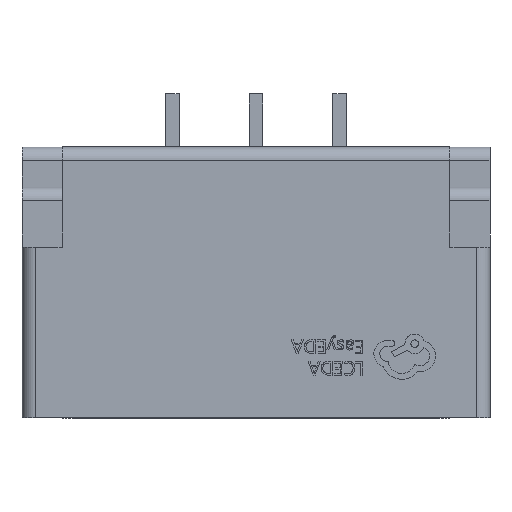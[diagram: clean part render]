
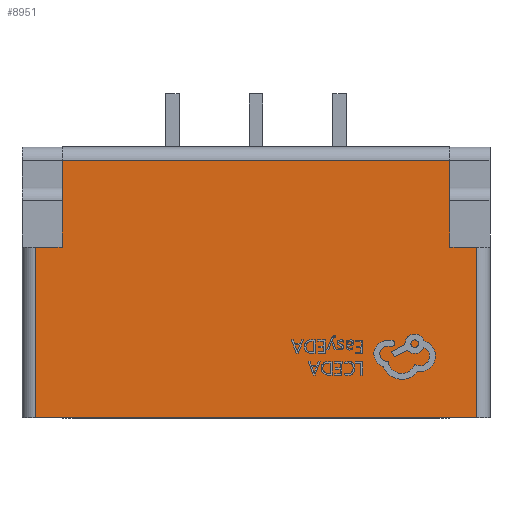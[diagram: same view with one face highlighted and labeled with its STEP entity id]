
A CAD part, top view. The second image highlights one B-rep face of the part: STEP entity #8951.
In plain terms, the highlighted planar face has unit normal (0, 0, 1).
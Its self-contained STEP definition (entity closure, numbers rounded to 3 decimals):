
#166 = DIRECTION ( 'NONE',  ( -1., 0., 0. ) ) ;
#608 = DIRECTION ( 'NONE',  ( 1., 0., 0. ) ) ;
#1118 = CARTESIAN_POINT ( 'NONE',  ( -3.3, -2.025, 4.25 ) ) ;
#1282 = CARTESIAN_POINT ( 'NONE',  ( -2.9, 1.825, 4.25 ) ) ;
#1519 = VERTEX_POINT ( 'NONE', #3783 ) ;
#1938 = CARTESIAN_POINT ( 'NONE',  ( -2.9, 1.825, 4.25 ) ) ;
#1997 = VERTEX_POINT ( 'NONE', #6912 ) ;
#2168 = VERTEX_POINT ( 'NONE', #1282 ) ;
#3112 = ORIENTED_EDGE ( 'NONE', *, *, #18468, .F. ) ;
#3619 = DIRECTION ( 'NONE',  ( 0., 0., 1. ) ) ;
#3783 = CARTESIAN_POINT ( 'NONE',  ( -2.9, 0.525, 4.25 ) ) ;
#4065 = VECTOR ( 'NONE', #608, 1000. ) ;
#4107 = LINE ( 'NONE', #11355, #13711 ) ;
#4364 = ORIENTED_EDGE ( 'NONE', *, *, #6039, .T. ) ;
#4454 = CARTESIAN_POINT ( 'NONE',  ( -3.3, 0.525, 4.25 ) ) ;
#4612 = EDGE_CURVE ( 'NONE', #18780, #10794, #4107, .T. ) ;
#4733 = EDGE_CURVE ( 'NONE', #17572, #2168, #18114, .T. ) ;
#4844 = CARTESIAN_POINT ( 'NONE',  ( 3.3, 0.525, 4.25 ) ) ;
#5440 = EDGE_LOOP ( 'NONE', ( #3112, #6713, #22848, #5798, #16793, #20905, #4364, #20275 ) ) ;
#5640 = CARTESIAN_POINT ( 'NONE',  ( 0., 0., 4.25 ) ) ;
#5798 = ORIENTED_EDGE ( 'NONE', *, *, #7773, .T. ) ;
#5943 = CARTESIAN_POINT ( 'NONE',  ( 2.9, 0.525, 4.25 ) ) ;
#5975 = LINE ( 'NONE', #13190, #10787 ) ;
#6013 = CARTESIAN_POINT ( 'NONE',  ( -2.9, 0., 4.25 ) ) ;
#6039 = EDGE_CURVE ( 'NONE', #1997, #10794, #5975, .T. ) ;
#6331 = CARTESIAN_POINT ( 'NONE',  ( 2.9, 0., 4.25 ) ) ;
#6377 = VECTOR ( 'NONE', #13229, 1000. ) ;
#6713 = ORIENTED_EDGE ( 'NONE', *, *, #4733, .T. ) ;
#6912 = CARTESIAN_POINT ( 'NONE',  ( 3.3, -2.025, 4.25 ) ) ;
#6999 = CARTESIAN_POINT ( 'NONE',  ( -2.9, 0.525, 4.25 ) ) ;
#7773 = EDGE_CURVE ( 'NONE', #1519, #9935, #21481, .T. ) ;
#8345 = DIRECTION ( 'NONE',  ( 0., -1., 0. ) ) ;
#8771 = CARTESIAN_POINT ( 'NONE',  ( 2.9, 1.825, 4.25 ) ) ;
#8951 = ADVANCED_FACE ( 'NONE', ( #9087 ), #19668, .T. ) ;
#9087 = FACE_OUTER_BOUND ( 'NONE', #5440, .T. ) ;
#9324 = VECTOR ( 'NONE', #15764, 1000. ) ;
#9406 = EDGE_CURVE ( 'NONE', #9935, #22777, #10124, .T. ) ;
#9935 = VERTEX_POINT ( 'NONE', #4454 ) ;
#10100 = EDGE_CURVE ( 'NONE', #2168, #1519, #16754, .T. ) ;
#10124 = LINE ( 'NONE', #1118, #13938 ) ;
#10787 = VECTOR ( 'NONE', #13307, 1000. ) ;
#10794 = VERTEX_POINT ( 'NONE', #4844 ) ;
#11235 = AXIS2_PLACEMENT_3D ( 'NONE', #5640, #3619, #17931 ) ;
#11355 = CARTESIAN_POINT ( 'NONE',  ( 2.9, 0.525, 4.25 ) ) ;
#12202 = VECTOR ( 'NONE', #166, 1000. ) ;
#12690 = VECTOR ( 'NONE', #19584, 1000. ) ;
#13190 = CARTESIAN_POINT ( 'NONE',  ( 3.3, 0.525, 4.25 ) ) ;
#13229 = DIRECTION ( 'NONE',  ( 0., -1., 0. ) ) ;
#13307 = DIRECTION ( 'NONE',  ( 0., 1., 0. ) ) ;
#13445 = EDGE_CURVE ( 'NONE', #22777, #1997, #15155, .T. ) ;
#13711 = VECTOR ( 'NONE', #18519, 1000. ) ;
#13938 = VECTOR ( 'NONE', #8345, 1000. ) ;
#15155 = LINE ( 'NONE', #18667, #4065 ) ;
#15764 = DIRECTION ( 'NONE',  ( 0., -1., 0. ) ) ;
#16754 = LINE ( 'NONE', #6013, #6377 ) ;
#16793 = ORIENTED_EDGE ( 'NONE', *, *, #9406, .T. ) ;
#16821 = LINE ( 'NONE', #6331, #9324 ) ;
#17572 = VERTEX_POINT ( 'NONE', #8771 ) ;
#17931 = DIRECTION ( 'NONE',  ( 1., 0., 0. ) ) ;
#18114 = LINE ( 'NONE', #1938, #12202 ) ;
#18468 = EDGE_CURVE ( 'NONE', #17572, #18780, #16821, .T. ) ;
#18519 = DIRECTION ( 'NONE',  ( 1., 0., 0. ) ) ;
#18667 = CARTESIAN_POINT ( 'NONE',  ( -3.5, -2.025, 4.25 ) ) ;
#18780 = VERTEX_POINT ( 'NONE', #5943 ) ;
#19584 = DIRECTION ( 'NONE',  ( -1., 0., 0. ) ) ;
#19668 = PLANE ( 'NONE',  #11235 ) ;
#20275 = ORIENTED_EDGE ( 'NONE', *, *, #4612, .F. ) ;
#20679 = CARTESIAN_POINT ( 'NONE',  ( -3.3, -2.025, 4.25 ) ) ;
#20905 = ORIENTED_EDGE ( 'NONE', *, *, #13445, .T. ) ;
#21481 = LINE ( 'NONE', #6999, #12690 ) ;
#22777 = VERTEX_POINT ( 'NONE', #20679 ) ;
#22848 = ORIENTED_EDGE ( 'NONE', *, *, #10100, .T. ) ;
